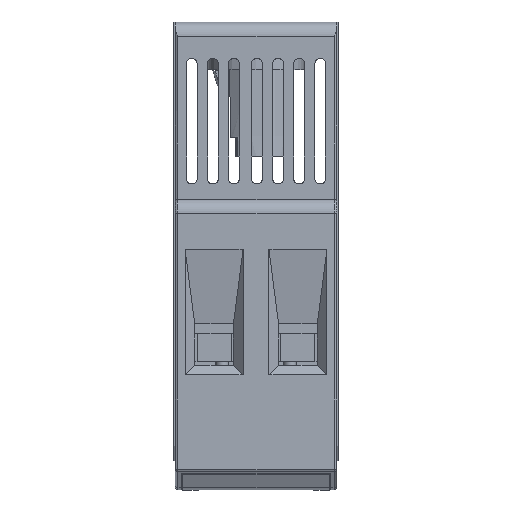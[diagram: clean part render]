
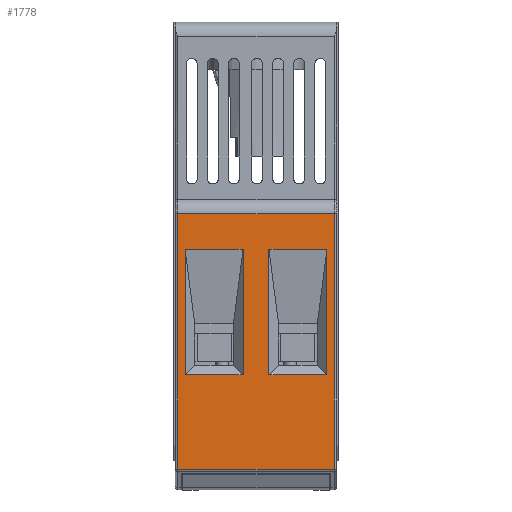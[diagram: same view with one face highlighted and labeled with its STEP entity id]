
A CAD part, left-side view. The second image highlights one B-rep face of the part: STEP entity #1778.
In plain terms, the highlighted planar face has unit normal (-1, 0, 0).
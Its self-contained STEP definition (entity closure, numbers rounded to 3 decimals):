
#1377=FACE_BOUND('',#4667,.T.);
#1378=FACE_BOUND('',#4668,.T.);
#1379=FACE_BOUND('',#4669,.T.);
#1778=ADVANCED_FACE('',(#1377,#1378,#1379),#2778,.T.);
#2778=PLANE('',#21387);
#4667=EDGE_LOOP('',(#8062,#8063,#8064,#8065));
#4668=EDGE_LOOP('',(#8066,#8067,#8068,#8069));
#4669=EDGE_LOOP('',(#8070,#8071,#8072,#8073));
#8062=ORIENTED_EDGE('',*,*,#14962,.T.);
#8063=ORIENTED_EDGE('',*,*,#14963,.T.);
#8064=ORIENTED_EDGE('',*,*,#14964,.T.);
#8065=ORIENTED_EDGE('',*,*,#14965,.T.);
#8066=ORIENTED_EDGE('',*,*,#14966,.F.);
#8067=ORIENTED_EDGE('',*,*,#14967,.F.);
#8068=ORIENTED_EDGE('',*,*,#14968,.T.);
#8069=ORIENTED_EDGE('',*,*,#14969,.F.);
#8070=ORIENTED_EDGE('',*,*,#14970,.T.);
#8071=ORIENTED_EDGE('',*,*,#14971,.T.);
#8072=ORIENTED_EDGE('',*,*,#14972,.T.);
#8073=ORIENTED_EDGE('',*,*,#14973,.F.);
#12701=VERTEX_POINT('',#31589);
#12702=VERTEX_POINT('',#31590);
#12703=VERTEX_POINT('',#31592);
#12704=VERTEX_POINT('',#31594);
#12705=VERTEX_POINT('',#31597);
#12706=VERTEX_POINT('',#31598);
#12707=VERTEX_POINT('',#31600);
#12708=VERTEX_POINT('',#31602);
#12709=VERTEX_POINT('',#31605);
#12710=VERTEX_POINT('',#31606);
#12711=VERTEX_POINT('',#31608);
#12712=VERTEX_POINT('',#31610);
#14962=EDGE_CURVE('',#12701,#12702,#17439,.T.);
#14963=EDGE_CURVE('',#12702,#12703,#17440,.T.);
#14964=EDGE_CURVE('',#12703,#12704,#17441,.T.);
#14965=EDGE_CURVE('',#12704,#12701,#17442,.T.);
#14966=EDGE_CURVE('',#12705,#12706,#17443,.T.);
#14967=EDGE_CURVE('',#12707,#12705,#17444,.T.);
#14968=EDGE_CURVE('',#12707,#12708,#17445,.T.);
#14969=EDGE_CURVE('',#12706,#12708,#17446,.T.);
#14970=EDGE_CURVE('',#12709,#12710,#17447,.T.);
#14971=EDGE_CURVE('',#12710,#12711,#17448,.T.);
#14972=EDGE_CURVE('',#12711,#12712,#17449,.T.);
#14973=EDGE_CURVE('',#12709,#12712,#17450,.T.);
#17439=LINE('',#31588,#19652);
#17440=LINE('',#31591,#19653);
#17441=LINE('',#31593,#19654);
#17442=LINE('',#31595,#19655);
#17443=LINE('',#31596,#19656);
#17444=LINE('',#31599,#19657);
#17445=LINE('',#31601,#19658);
#17446=LINE('',#31603,#19659);
#17447=LINE('',#31604,#19660);
#17448=LINE('',#31607,#19661);
#17449=LINE('',#31609,#19662);
#17450=LINE('',#31611,#19663);
#19652=VECTOR('',#25188,1.);
#19653=VECTOR('',#25189,1.);
#19654=VECTOR('',#25190,1.);
#19655=VECTOR('',#25191,1.);
#19656=VECTOR('',#25192,1.);
#19657=VECTOR('',#25193,1.);
#19658=VECTOR('',#25194,1.);
#19659=VECTOR('',#25195,1.);
#19660=VECTOR('',#25196,1.);
#19661=VECTOR('',#25197,1.);
#19662=VECTOR('',#25198,1.);
#19663=VECTOR('',#25199,1.);
#21387=AXIS2_PLACEMENT_3D('',#31612,#25200,#25201);
#25188=DIRECTION('',(0.,-1.,0.));
#25189=DIRECTION('',(0.,0.,-1.));
#25190=DIRECTION('',(0.,1.,0.));
#25191=DIRECTION('',(0.,0.,1.));
#25192=DIRECTION('',(0.,-1.,0.));
#25193=DIRECTION('',(0.,0.,-1.));
#25194=DIRECTION('',(0.,-1.,0.));
#25195=DIRECTION('',(0.,0.,1.));
#25196=DIRECTION('',(0.,0.,-1.));
#25197=DIRECTION('',(0.,-1.,0.));
#25198=DIRECTION('',(0.,0.,1.));
#25199=DIRECTION('',(0.,-1.,0.));
#25200=DIRECTION('',(-1.,0.,0.));
#25201=DIRECTION('',(0.,0.,-1.));
#31588=CARTESIAN_POINT('',(-42.,1.35,-3.7));
#31589=CARTESIAN_POINT('',(-42.,7.4,-3.7));
#31590=CARTESIAN_POINT('',(-42.,1.35,-3.7));
#31591=CARTESIAN_POINT('',(-42.,1.35,-15.8));
#31592=CARTESIAN_POINT('',(-42.,1.35,-16.8));
#31593=CARTESIAN_POINT('',(-42.,6.4,-16.8));
#31594=CARTESIAN_POINT('',(-42.,7.4,-16.8));
#31595=CARTESIAN_POINT('',(-42.,7.4,-11.5));
#31596=CARTESIAN_POINT('',(-42.,-1.35,-16.8));
#31597=CARTESIAN_POINT('',(-42.,-1.35,-16.8));
#31598=CARTESIAN_POINT('',(-42.,-7.4,-16.8));
#31599=CARTESIAN_POINT('',(-42.,-1.35,-10.25));
#31600=CARTESIAN_POINT('',(-42.,-1.35,-3.7));
#31601=CARTESIAN_POINT('',(-42.,-1.35,-3.7));
#31602=CARTESIAN_POINT('',(-42.,-7.4,-3.7));
#31603=CARTESIAN_POINT('',(-42.,-7.4,-10.25));
#31604=CARTESIAN_POINT('',(-42.,8.15,0.));
#31605=CARTESIAN_POINT('',(-42.,8.15,0.));
#31606=CARTESIAN_POINT('',(-42.,8.15,-26.648));
#31607=CARTESIAN_POINT('',(-42.,8.75,-26.648));
#31608=CARTESIAN_POINT('',(-42.,-8.15,-26.648));
#31609=CARTESIAN_POINT('',(-42.,-8.15,0.));
#31610=CARTESIAN_POINT('',(-42.,-8.15,0.));
#31611=CARTESIAN_POINT('',(-42.,8.75,0.));
#31612=CARTESIAN_POINT('',(-42.,8.75,0.));
